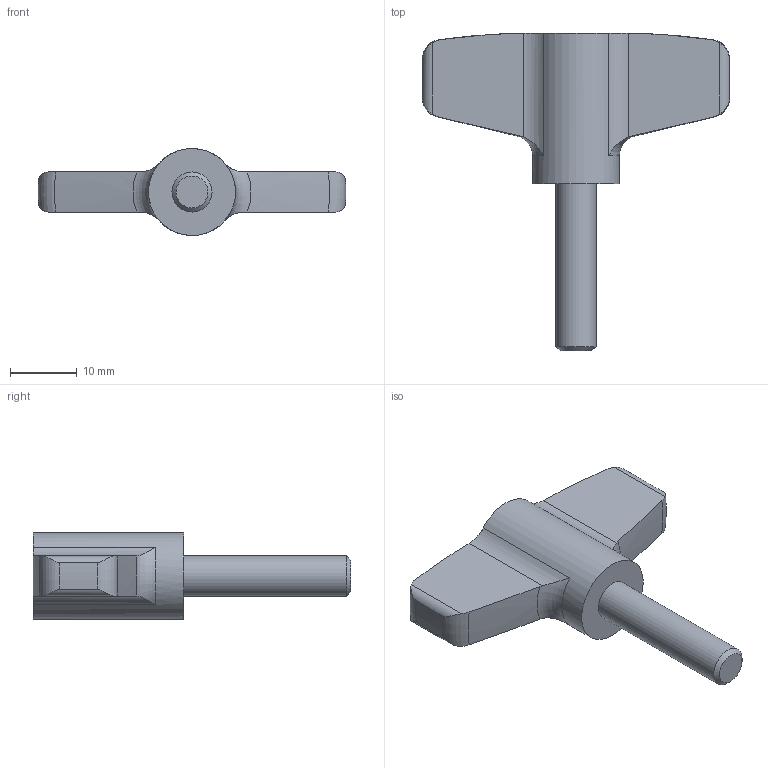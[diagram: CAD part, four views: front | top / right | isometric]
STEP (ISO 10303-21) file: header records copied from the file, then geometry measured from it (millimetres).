
FILE_DESCRIPTION( ( 'STEP AP203' ), '1' );
FILE_NAME( 'C:/Temp/Ganter_Step_05_03_2020/data/2_2/gn_835/Stainless Steel-Wing screw GN 835-46-M6-25-MT.stp', '2020-03-05T12:19:30', ( 'License CC BY-ND 4.0' ), ( 'CADENAS' ), ' ', 'PARTsolutions', ' ' );
FILE_SCHEMA( ( 'CONFIG_CONTROL_DESIGN' ) );
Length unit declared in the file: millimetre
Products named in the file (1): _Stainless Steel-Wing screw GN 835-46-M6-25-MT
Bounding box: 45.98 x 47.5 x 13 mm (x, y, z)
Volume: 6407.1 mm3; surface area: 2838.9 mm2
Topology: 1 solids, 1 shells, 30 faces, 76 edges, 49 vertices
Faces by surface type: cylinder 12, plane 7, torus 6, cone 3, bspline 2
Full cylindrical faces by diameter (mm): 6 x1, 13 x1
Entity records: 1162 total; most frequent: CARTESIAN_POINT 473, ORIENTED_EDGE 144, DIRECTION 114, EDGE_CURVE 72, AXIS2_PLACEMENT_3D 49, VERTEX_POINT 48, B_SPLINE_CURVE_WITH_KNOTS 36, EDGE_LOOP 34
